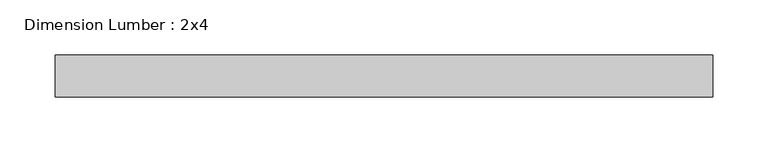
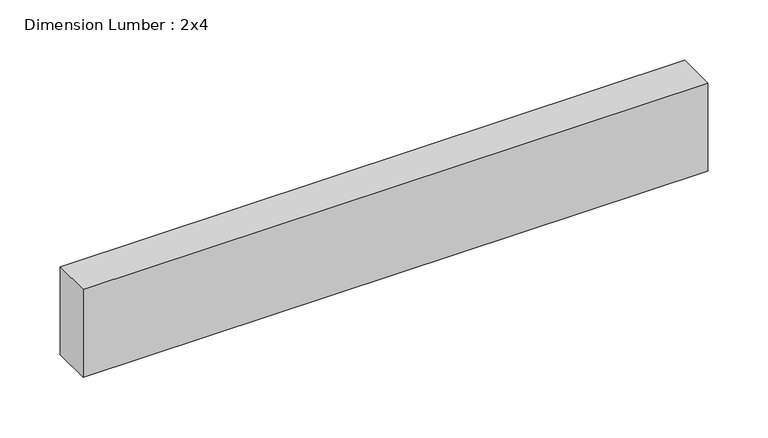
"""IFC4 building model written with IfcOpenShell, lengths in millimetres: beam geometry, Dimension Lumber : 2x4."""

from ifc_helpers import new_model, si_unit, frame, origin, place, context, project, spatial, polyline, outline, extrude, source, transform, mapped, element, save


def dimension_lumber_2x4_f0cfbcd8(model_context):
    return source(origin(), model_context, "Body", "SweptSolid", [
        extrude(outline(polyline([(307.9749994, 19.05), (307.9749994, -19.05), (-288.925, -19.05), (-288.925, 19.05), (307.9749994, 19.05)])), frame((0.0, 0.0, -44.45), z_axis=(0.0, 0.0, 1.0), x_axis=(1.0, 0.0, 0.0)), (0.0, 0.0, 1.0), 88.9),
    ])


if __name__ == "__main__":
    model = new_model("IFC4")
    model_context = context("Model", 3, world=origin())
    ifc_project = project(units=[si_unit("LENGTHUNIT", "METRE", prefix="MILLI")], contexts=[model_context])
    site = spatial("IfcSite", under=ifc_project)
    building = spatial("IfcBuilding", under=site)
    placement = place(None, origin())
    dimension_lumber_2x4_shape = dimension_lumber_2x4_f0cfbcd8(model_context)
    element("IfcBeam", 1, ObjectType="Dimension Lumber : 2x4", at=placement, inside=building, context=model_context, shape_type="MappedRepresentation", body=[
        mapped(dimension_lumber_2x4_shape, transform((0.0, 0.0, 0.0), x_axis=(1.0, 0.0, 0.0), y_axis=(0.0, 1.0, 0.0), z_axis=(0.0, 0.0, 1.0))),
    ])
    save(model, "model.ifc")
